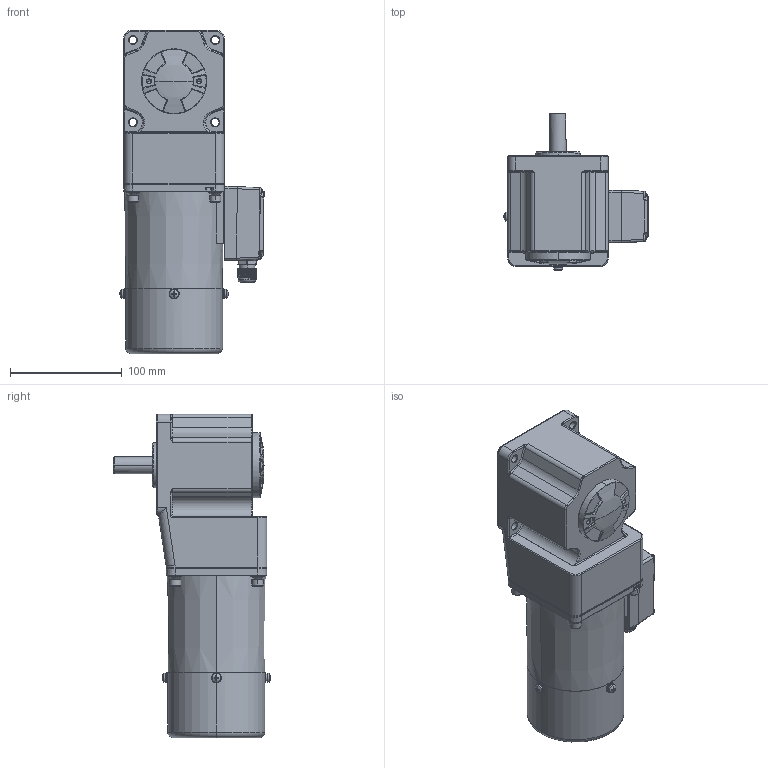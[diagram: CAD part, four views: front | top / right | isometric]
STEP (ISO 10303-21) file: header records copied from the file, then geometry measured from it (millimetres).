
FILE_DESCRIPTION (( 'STEP AP203' ), '1' );
FILE_NAME ('5RK40GU-CMT(5GU3RT-180RT).STEP', '2020-04-28T05:34:45', ( 'Windows 蚚誧' ), ( '' ), 'SwSTEP 2.0', 'SolidWorks 2019', '' );
FILE_SCHEMA (( 'CONFIG_CONTROL_DESIGN' ));
Length unit declared in the file: millimetre
Products named in the file (3): 5RK40A-CMT; 90RT; 5RK40GU-CMT(5GU3RT-180RT)
Assembly tree (2 placements, depth 2):
  5RK40GU-CMT(5GU3RT-180RT)
    5RK40A-CMT
    90RT
Bounding box: 128.79 x 140.35 x 289 mm (x, y, z)
Volume: 1029508.7 mm3; surface area: 302519.2 mm2
Topology: 33 solids, 36 shells, 3306 faces, 8257 edges, 4907 vertices
Faces by surface type: cylinder 983, cone 764, plane 764, torus 461, bspline 182, sphere 152
Entity records: 112193 total; most frequent: CARTESIAN_POINT 34354, DIRECTION 17093, ORIENTED_EDGE 16126, EDGE_CURVE 8063, AXIS2_PLACEMENT_3D 7149, VERTEX_POINT 4897, CIRCLE 4020, EDGE_LOOP 3442
